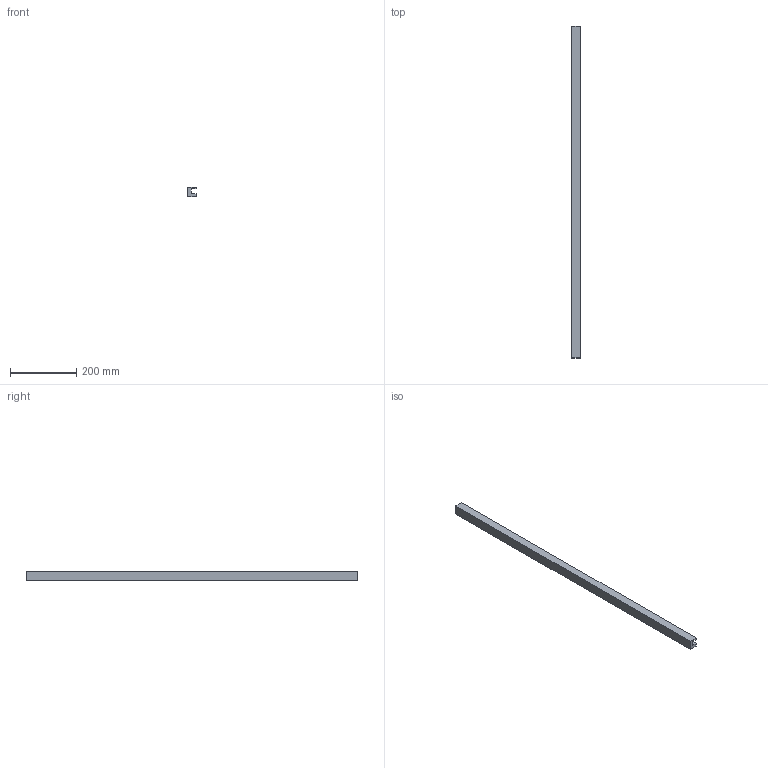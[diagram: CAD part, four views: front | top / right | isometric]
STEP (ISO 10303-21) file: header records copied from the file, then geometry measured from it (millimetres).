
FILE_DESCRIPTION (( 'STEP AP214' ), '1' );
FILE_NAME ('207DON001.STEP', '2025-07-07T13:05:46', ( '' ), ( '' ), 'SwSTEP 2.0', 'SolidWorks 2021', '' );
FILE_SCHEMA (( 'AUTOMOTIVE_DESIGN' ));
Length unit declared in the file: millimetre
Products named in the file (1): 207DON001
Bounding box: 25 x 1000 x 30 mm (x, y, z)
Volume: 525000 mm3; surface area: 141050 mm2
Topology: 1 solids, 1 shells, 10 faces, 24 edges, 16 vertices
Faces by surface type: plane 10
Entity records: 322 total; most frequent: CARTESIAN_POINT 51, ORIENTED_EDGE 48, DIRECTION 46, EDGE_CURVE 24, LINE 24, VECTOR 24, VERTEX_POINT 16, AXIS2_PLACEMENT_3D 11
